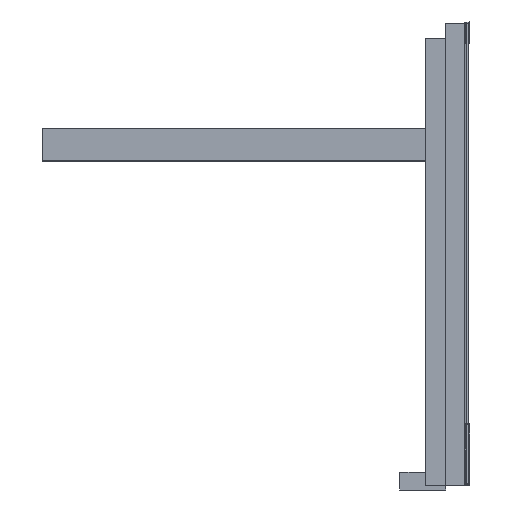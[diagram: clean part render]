
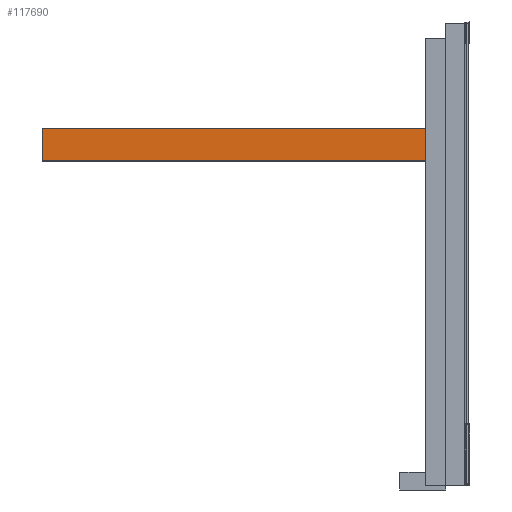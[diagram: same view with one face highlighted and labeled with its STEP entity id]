
A CAD part, front view. The second image highlights one B-rep face of the part: STEP entity #117690.
In plain terms, the highlighted free-form (B-spline) face has degree [1, 1] with [2, 2] control points.
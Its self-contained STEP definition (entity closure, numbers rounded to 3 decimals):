
#117340 = CARTESIAN_POINT ('', (-19.783, -280.373, 321.364));
#117350 = VERTEX_POINT ('', #117340);
#117360 = CARTESIAN_POINT ('', (-19.783, -280.373, 352.641));
#117370 = VERTEX_POINT ('', #117360);
#117380 = CARTESIAN_POINT ('', (-19.783, -280.373, 321.364));
#117390 = CARTESIAN_POINT ('', (-19.783, -280.373, 352.641));
#117400 = B_SPLINE_CURVE_WITH_KNOTS ('', 1, (#117380, #117390), .UNSPECIFIED., .F., .U., (2, 2), (0., 31.277), .UNSPECIFIED.);
#117410 = EDGE_CURVE ('', #117350, #117370, #117400, .T.);
#117420 = ORIENTED_EDGE ('', *, *, #117410, .T.);
#117430 = CARTESIAN_POINT ('', (-393.783, -280.373, 352.641));
#117440 = VERTEX_POINT ('', #117430);
#117450 = CARTESIAN_POINT ('', (-19.783, -280.373, 352.641));
#117460 = CARTESIAN_POINT ('', (-393.783, -280.373, 352.641));
#117470 = B_SPLINE_CURVE_WITH_KNOTS ('', 1, (#117450, #117460), .UNSPECIFIED., .F., .U., (2, 2), (0., 374.), .UNSPECIFIED.);
#117480 = EDGE_CURVE ('', #117370, #117440, #117470, .T.);
#117490 = ORIENTED_EDGE ('', *, *, #117480, .T.);
#117500 = CARTESIAN_POINT ('', (-393.783, -280.373, 321.364));
#117510 = VERTEX_POINT ('', #117500);
#117520 = CARTESIAN_POINT ('', (-393.783, -280.373, 321.364));
#117530 = CARTESIAN_POINT ('', (-393.783, -280.373, 352.641));
#117540 = B_SPLINE_CURVE_WITH_KNOTS ('', 1, (#117520, #117530), .UNSPECIFIED., .F., .U., (2, 2), (0., 31.277), .UNSPECIFIED.);
#117550 = EDGE_CURVE ('', #117510, #117440, #117540, .T.);
#117560 = ORIENTED_EDGE ('', *, *, #117550, .F.);
#117570 = CARTESIAN_POINT ('', (-19.783, -280.373, 321.364));
#117580 = CARTESIAN_POINT ('', (-393.783, -280.373, 321.364));
#117590 = B_SPLINE_CURVE_WITH_KNOTS ('', 1, (#117570, #117580), .UNSPECIFIED., .F., .U., (2, 2), (0., 374.), .UNSPECIFIED.);
#117600 = EDGE_CURVE ('', #117350, #117510, #117590, .T.);
#117610 = ORIENTED_EDGE ('', *, *, #117600, .F.);
#117620 = EDGE_LOOP ('', (#117420, #117490, #117560, #117610));
#117630 = FACE_OUTER_BOUND ('', #117620, .T.);
#117640 = CARTESIAN_POINT ('', (-12.303, -280.373, 320.739));
#117650 = CARTESIAN_POINT ('', (-401.263, -280.373, 320.739));
#117660 = CARTESIAN_POINT ('', (-12.303, -280.373, 353.267));
#117670 = CARTESIAN_POINT ('', (-401.263, -280.373, 353.267));
#117680 = B_SPLINE_SURFACE_WITH_KNOTS ('', 1, 1, ((#117640, #117650), (#117660, #117670)), .UNSPECIFIED., .F., .F., .U., (2, 2), (2, 2), (-0.626, 31.902), (-7.48, 381.48), .UNSPECIFIED.);
#117690 = ADVANCED_FACE ('', (#117630), #117680, .T.);
